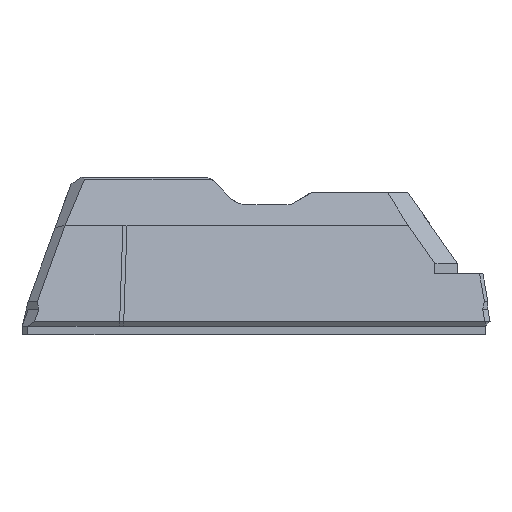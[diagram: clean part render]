
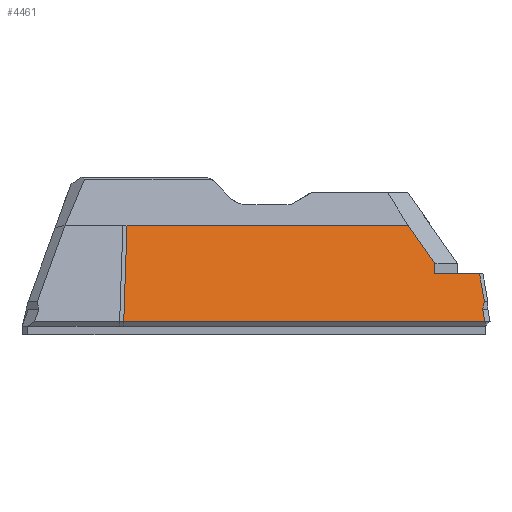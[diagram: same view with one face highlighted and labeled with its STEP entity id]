
A CAD part, left-side view. The second image highlights one B-rep face of the part: STEP entity #4461.
In plain terms, the highlighted planar face has unit normal (-0.977, 0, 0.212).
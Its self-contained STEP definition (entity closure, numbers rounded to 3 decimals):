
#1981=CARTESIAN_POINT('',(-6.137,632.739,-1.691));
#1982=VERTEX_POINT('',#1981);
#2060=CARTESIAN_POINT('',(-6.137,660.544,-1.691));
#2061=VERTEX_POINT('',#2060);
#2069=CARTESIAN_POINT('',(-6.137,660.544,-1.691));
#2070=DIRECTION('',(-0.,-1.,-0.));
#2071=VECTOR('',#2070,27.805);
#2072=LINE('',#2069,#2071);
#2073=EDGE_CURVE('NONE',#2061,#1982,#2072,.T.);
#4110=CARTESIAN_POINT('',(-8.206,660.867,-11.211));
#4111=VERTEX_POINT('',#4110);
#4117=CARTESIAN_POINT('',(-8.206,660.867,-11.211));
#4118=DIRECTION('',(0.212,-0.033,0.977));
#4119=VECTOR('',#4118,9.748);
#4120=LINE('',#4117,#4119);
#4121=EDGE_CURVE('NONE',#4111,#2061,#4120,.T.);
#4385=CARTESIAN_POINT('',(-7.182,625.676,-6.5));
#4386=VERTEX_POINT('',#4385);
#4393=CARTESIAN_POINT('',(-7.775,625.19,-9.228));
#4394=VERTEX_POINT('',#4393);
#4395=CARTESIAN_POINT('',(-7.182,625.676,-6.5));
#4396=CARTESIAN_POINT('',(-7.772,625.192,-9.228));
#4397=B_SPLINE_CURVE_WITH_KNOTS('',1,(#4395,#4396),.UNSPECIFIED.,.F.,.F.,(2,2),(0.,0.112),.UNSPECIFIED.);
#4398=EDGE_CURVE('NONE',#4386,#4394,#4397,.T.);
#4408=CARTESIAN_POINT('',(-6.107,670.55,-1.551));
#4409=DIRECTION('',(-0.977,0.,0.212));
#4410=DIRECTION('',(0.,1.,0.));
#4411=AXIS2_PLACEMENT_3D('',#4408,#4409,#4410);
#4412=PLANE('',#4411);
#4413=ORIENTED_EDGE('',*,*,#4121,.F.);
#4414=CARTESIAN_POINT('',(-8.206,625.144,-11.211));
#4415=VERTEX_POINT('',#4414);
#4416=CARTESIAN_POINT('',(-8.206,625.144,-11.211));
#4417=DIRECTION('',(0.,1.,0.));
#4418=VECTOR('',#4417,35.723);
#4419=LINE('',#4416,#4418);
#4420=EDGE_CURVE('NONE',#4415,#4111,#4419,.T.);
#4421=ORIENTED_EDGE('',*,*,#4420,.F.);
#4422=CARTESIAN_POINT('',(-7.946,625.355,-10.015));
#4423=VERTEX_POINT('',#4422);
#4424=CARTESIAN_POINT('',(-7.946,625.355,-10.015));
#4425=DIRECTION('',(-0.209,-0.17,-0.963));
#4426=VECTOR('',#4425,1.243);
#4427=LINE('',#4424,#4426);
#4428=EDGE_CURVE('NONE',#4423,#4415,#4427,.T.);
#4429=ORIENTED_EDGE('',*,*,#4428,.F.);
#4430=CARTESIAN_POINT('',(-7.946,625.355,-10.015));
#4431=CARTESIAN_POINT('',(-7.775,625.19,-9.227));
#4432=B_SPLINE_CURVE_WITH_KNOTS('',1,(#4430,#4431),.UNSPECIFIED.,.F.,.F.,(2,2),(0.,0.032),.UNSPECIFIED.);
#4433=EDGE_CURVE('NONE',#4423,#4394,#4432,.T.);
#4434=ORIENTED_EDGE('',*,*,#4433,.T.);
#4435=ORIENTED_EDGE('',*,*,#4398,.F.);
#4436=CARTESIAN_POINT('',(-7.182,630.084,-6.5));
#4437=VERTEX_POINT('',#4436);
#4438=CARTESIAN_POINT('',(-7.182,625.676,-6.5));
#4439=DIRECTION('',(0.,1.,0.));
#4440=VECTOR('',#4439,4.408);
#4441=LINE('',#4438,#4440);
#4442=EDGE_CURVE('NONE',#4386,#4437,#4441,.T.);
#4443=ORIENTED_EDGE('',*,*,#4442,.T.);
#4444=CARTESIAN_POINT('',(-6.961,630.084,-5.482));
#4445=VERTEX_POINT('',#4444);
#4446=CARTESIAN_POINT('',(-7.182,630.084,-6.5));
#4447=DIRECTION('',(0.212,-0.,0.977));
#4448=VECTOR('',#4447,1.041);
#4449=LINE('',#4446,#4448);
#4450=EDGE_CURVE('NONE',#4437,#4445,#4449,.T.);
#4451=ORIENTED_EDGE('',*,*,#4450,.T.);
#4452=CARTESIAN_POINT('',(-6.137,632.739,-1.691));
#4453=DIRECTION('',(-0.175,-0.565,-0.806));
#4454=VECTOR('',#4453,4.702);
#4455=LINE('',#4452,#4454);
#4456=EDGE_CURVE('NONE',#1982,#4445,#4455,.T.);
#4457=ORIENTED_EDGE('',*,*,#4456,.F.);
#4458=ORIENTED_EDGE('',*,*,#2073,.F.);
#4459=EDGE_LOOP('',(#4413,#4421,#4429,#4434,#4435,#4443,#4451,#4457,#4458));
#4460=FACE_BOUND('',#4459,.T.);
#4461=ADVANCED_FACE('NONE',(#4460),#4412,.T.);
